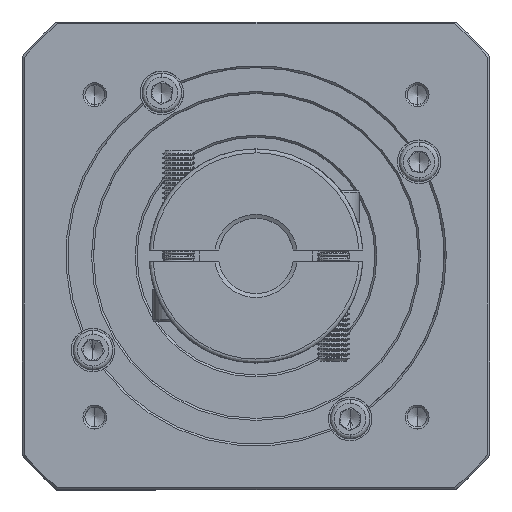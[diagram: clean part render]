
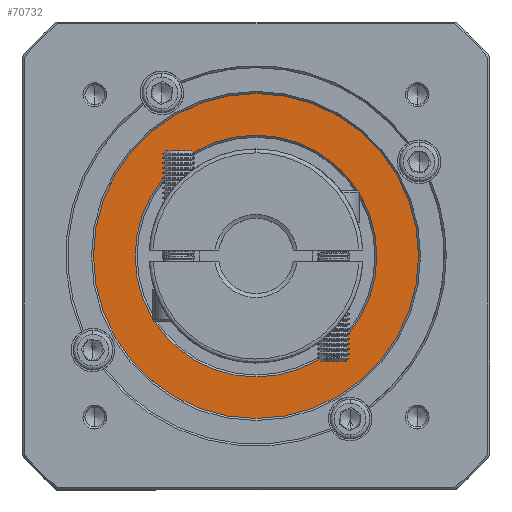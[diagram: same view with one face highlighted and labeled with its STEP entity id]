
A CAD part, top view. The second image highlights one B-rep face of the part: STEP entity #70732.
In plain terms, the highlighted planar face has unit normal (0, 0, 1).
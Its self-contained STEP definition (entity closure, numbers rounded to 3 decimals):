
#1243 = AXIS2_PLACEMENT_3D ( 'NONE', #86118, #31015, #95373 ) ;
#2121 = VERTEX_POINT ( 'NONE', #117719 ) ;
#3499 = ORIENTED_EDGE ( 'NONE', *, *, #13010, .T. ) ;
#6158 = PLANE ( 'NONE',  #112720 ) ;
#13010 = EDGE_CURVE ( 'NONE', #105564, #71958, #90956, .T. ) ;
#13335 = CARTESIAN_POINT ( 'NONE',  ( -144.201, 57.895, 78.269 ) ) ;
#13749 = VERTEX_POINT ( 'NONE', #72459 ) ;
#15684 = AXIS2_PLACEMENT_3D ( 'NONE', #90085, #34994, #99367 ) ;
#16309 = FACE_OUTER_BOUND ( 'NONE', #93001, .T. ) ;
#24469 = CARTESIAN_POINT ( 'NONE',  ( -144.201, 88.395, 78.269 ) ) ;
#25143 = DIRECTION ( 'NONE',  ( 0., 0., 1. ) ) ;
#28084 = EDGE_CURVE ( 'NONE', #2121, #13749, #94779, .T. ) ;
#28469 = ORIENTED_EDGE ( 'NONE', *, *, #49723, .T. ) ;
#31015 = DIRECTION ( 'NONE',  ( 0., 0., 1. ) ) ;
#33758 = DIRECTION ( 'NONE',  ( 0., 1., 0. ) ) ;
#34994 = DIRECTION ( 'NONE',  ( 0., 0., -1. ) ) ;
#48184 = CARTESIAN_POINT ( 'NONE',  ( -144.201, 88.395, 78.269 ) ) ;
#49723 = EDGE_CURVE ( 'NONE', #71958, #105564, #117815, .T. ) ;
#57435 = DIRECTION ( 'NONE',  ( 0., 1., 0. ) ) ;
#70732 = ADVANCED_FACE ( 'NONE', ( #16309, #111366 ), #6158, .T. ) ;
#71958 = VERTEX_POINT ( 'NONE', #13335 ) ;
#72459 = CARTESIAN_POINT ( 'NONE',  ( -144.201, 129.395, 78.269 ) ) ;
#75406 = AXIS2_PLACEMENT_3D ( 'NONE', #24469, #88852, #33758 ) ;
#77006 = ORIENTED_EDGE ( 'NONE', *, *, #28084, .T. ) ;
#80242 = CARTESIAN_POINT ( 'NONE',  ( -144.201, 88.395, 78.269 ) ) ;
#83120 = CARTESIAN_POINT ( 'NONE',  ( -144.201, 118.895, 78.269 ) ) ;
#86118 = CARTESIAN_POINT ( 'NONE',  ( -144.201, 88.395, 78.269 ) ) ;
#88852 = DIRECTION ( 'NONE',  ( 0., 0., -1. ) ) ;
#89530 = DIRECTION ( 'NONE',  ( 0., 1., 0. ) ) ;
#90085 = CARTESIAN_POINT ( 'NONE',  ( -144.201, 88.395, 78.269 ) ) ;
#90956 = CIRCLE ( 'NONE', #75406, 30.5 ) ;
#93001 = EDGE_LOOP ( 'NONE', ( #118042, #77006 ) ) ;
#93714 = EDGE_CURVE ( 'NONE', #13749, #2121, #96517, .T. ) ;
#94779 = CIRCLE ( 'NONE', #115740, 41. ) ;
#95373 = DIRECTION ( 'NONE',  ( 0., 1., 0. ) ) ;
#96517 = CIRCLE ( 'NONE', #1243, 41. ) ;
#99367 = DIRECTION ( 'NONE',  ( 0., 1., 0. ) ) ;
#105564 = VERTEX_POINT ( 'NONE', #83120 ) ;
#111366 = FACE_BOUND ( 'NONE', #111710, .T. ) ;
#111710 = EDGE_LOOP ( 'NONE', ( #3499, #28469 ) ) ;
#112576 = DIRECTION ( 'NONE',  ( 0., 0., 1. ) ) ;
#112720 = AXIS2_PLACEMENT_3D ( 'NONE', #80242, #25143, #89530 ) ;
#115740 = AXIS2_PLACEMENT_3D ( 'NONE', #48184, #112576, #57435 ) ;
#117719 = CARTESIAN_POINT ( 'NONE',  ( -144.201, 47.395, 78.269 ) ) ;
#117815 = CIRCLE ( 'NONE', #15684, 30.5 ) ;
#118042 = ORIENTED_EDGE ( 'NONE', *, *, #93714, .T. ) ;
